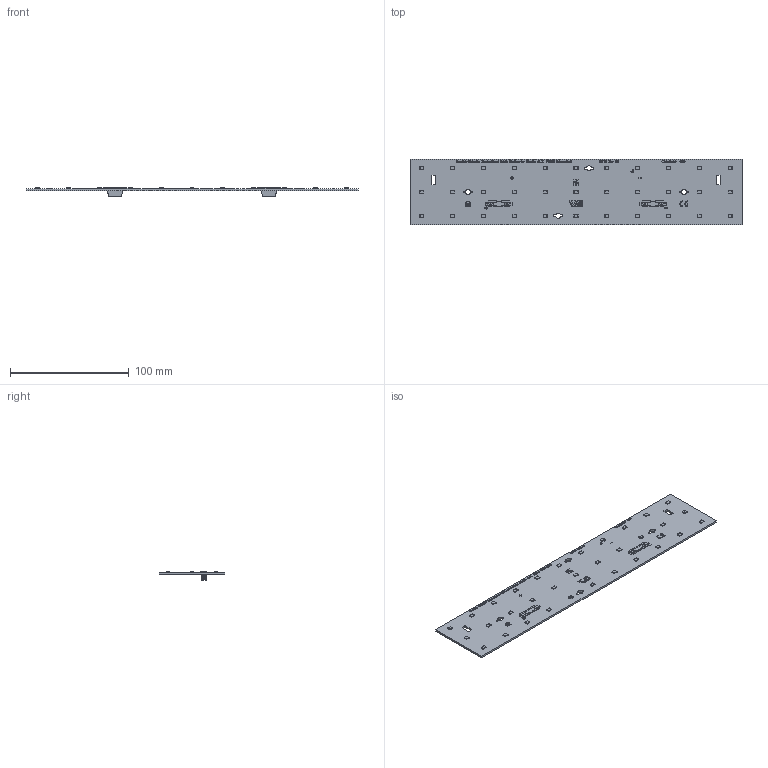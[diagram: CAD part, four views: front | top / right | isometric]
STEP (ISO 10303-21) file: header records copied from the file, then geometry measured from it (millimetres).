
FILE_DESCRIPTION(('Creo Elements/Direct Modeling STEP Export'),'2;1');
FILE_NAME('3D-Model_MLC SC W5.5_280_33_yzz G2_BC.stp','2025-05-19T14:42:43',(''),(''),'PTC Creo Elements/Direct Modeling STEP processor for AP214 (Solid Model)','PTC Creo Elements/Direct Modeling 19.0E 27-Jun-2016 (C) Parametric Technology GmbH','');
FILE_SCHEMA(('AUTOMOTIVE_DESIGN { 1 0 10303 214 1 1 1 1 }'));
Length unit declared in the file: millimetre
Products named in the file (128): PRINT.10; PRINT.12; PRINT.13; PRINT.5; PRINT.7; PRINT.8; PRINT.11; PRINT.6; PRINT.15; PRINT.14; PRINT.9; PRINT.105; PRINT.110; PRINT.106; PRINT.108; PRINT.109; PRINT.103; PRINT.102; PRINT.107; PRINT.104; PRINT.55; PRINT.49; PRINT.53; PRINT.47; PRINT.52; PRINT.48; PRINT.50; PRINT.51; PRINT.56; PRINT.57; PRINT.54; PRINT.18; PRINT.17; PRINT.25; PRINT.26; PRINT.23; PRINT.20; PRINT.16; PRINT.19; PRINT.24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
Assembly tree (146 placements, depth 2):
  Print-Service
    PRINT.76
    PRINT.74
    PRINT.73
    PRINT.78
    PRINT.72
    PRINT.77
    PRINT.88
    PRINT.81
    PRINT.87
    PRINT.75
    PRINT.70
    PRINT.71
    PRINT.69
    PRINT.79
    PRINT.82
    PRINT.89
    PRINT.86
    PRINT.85
    PRINT.80
    PRINT.83
    PRINT.90
    PRINT.84
    PRINT.66
    PRINT.58
    PRINT.65
    PRINT.63
    PRINT.67
    PRINT.60
    PRINT.68
    PRINT.62
    PRINT.64
    PRINT.59
    PRINT.61
    PRINT.29
    PRINT.31
    PRINT.32
    PRINT.34
    PRINT.27
    PRINT.37
    PRINT.35
    PRINT.36
    PRINT.33
    PRINT.28
    PRINT.30
    PRINT.93
    PRINT.96
    PRINT.92
    PRINT.91
    PRINT.98
    PRINT.97
    PRINT.99
    PRINT.94
    PRINT.95
    PRINT.100
    PRINT.101
    PRINT.45
    PRINT.46
    PRINT.39
    PRINT.38
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Bounding box: 280 x 55 x 7.45 mm (x, y, z)
Volume: 24920.9 mm3; surface area: 34557.7 mm2
Topology: 147 solids, 147 shells, 5760 faces, 15750 edges, 10369 vertices
Faces by surface type: plane 4472, cylinder 1276, cone 12
Entity records: 151021 total; most frequent: CARTESIAN_POINT 20971, ORIENTED_EDGE 20414, DIRECTION 19731, EDGE_CURVE 10207, VECTOR 8331, LINE 8331, VERTEX_POINT 6758, AXIS2_PLACEMENT_3D 5700
